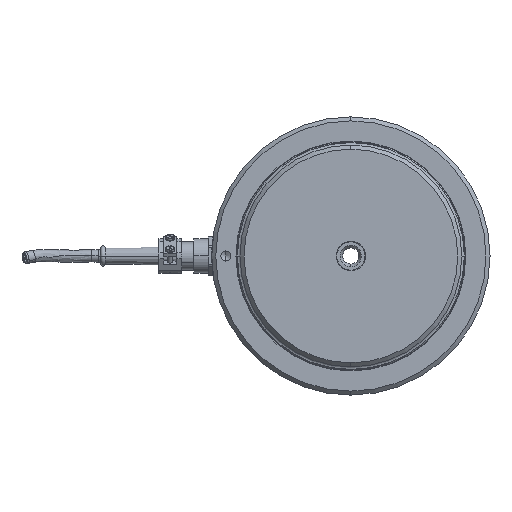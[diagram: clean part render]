
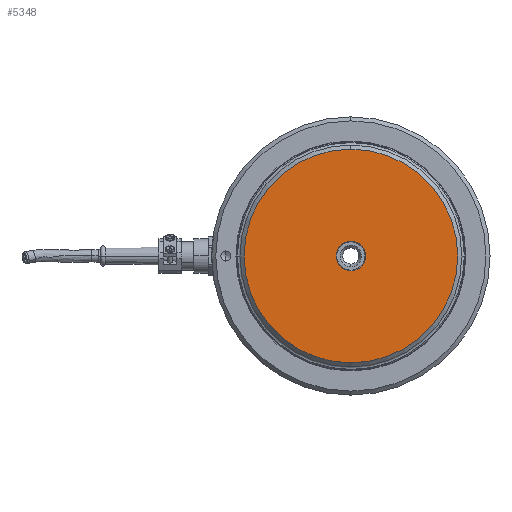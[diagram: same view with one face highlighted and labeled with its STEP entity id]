
A CAD part, left-side view. The second image highlights one B-rep face of the part: STEP entity #5348.
In plain terms, the highlighted planar face has unit normal (-1, 0, 0).
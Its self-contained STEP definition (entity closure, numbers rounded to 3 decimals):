
#30 = CARTESIAN_POINT ( 'NONE',  ( 0., 0., 0. ) ) ;
#328 = ORIENTED_EDGE ( 'NONE', *, *, #1116, .T. ) ;
#642 = EDGE_LOOP ( 'NONE', ( #818, #1182 ) ) ;
#818 = ORIENTED_EDGE ( 'NONE', *, *, #3886, .F. ) ;
#1010 = AXIS2_PLACEMENT_3D ( 'NONE', #30, #5929, #5841 ) ;
#1039 = AXIS2_PLACEMENT_3D ( 'NONE', #1417, #1298, #1276 ) ;
#1116 = EDGE_CURVE ( 'NONE', #1416, #4373, #5335, .T. ) ;
#1182 = ORIENTED_EDGE ( 'NONE', *, *, #1715, .F. ) ;
#1276 = DIRECTION ( 'NONE',  ( 0., 0., -1. ) ) ;
#1298 = DIRECTION ( 'NONE',  ( 1., 0., 0. ) ) ;
#1416 = VERTEX_POINT ( 'NONE', #1906 ) ;
#1417 = CARTESIAN_POINT ( 'NONE',  ( 0., 0., 0. ) ) ;
#1476 = AXIS2_PLACEMENT_3D ( 'NONE', #2980, #2933, #2891 ) ;
#1478 = PLANE ( 'NONE',  #1039 ) ;
#1509 = VERTEX_POINT ( 'NONE', #6103 ) ;
#1569 = DIRECTION ( 'NONE',  ( 0., 0., -1. ) ) ;
#1578 = DIRECTION ( 'NONE',  ( -1., 0., 0. ) ) ;
#1594 = CARTESIAN_POINT ( 'NONE',  ( 0., 0., 0. ) ) ;
#1715 = EDGE_CURVE ( 'NONE', #4143, #1509, #6416, .T. ) ;
#1905 = CIRCLE ( 'NONE', #1010, 53. ) ;
#1906 = CARTESIAN_POINT ( 'NONE',  ( 0., 0., 53. ) ) ;
#2113 = CARTESIAN_POINT ( 'NONE',  ( 0., 0., -53. ) ) ;
#2477 = CIRCLE ( 'NONE', #1476, 7.3 ) ;
#2891 = DIRECTION ( 'NONE',  ( 0., 0., 1. ) ) ;
#2933 = DIRECTION ( 'NONE',  ( -1., 0., 0. ) ) ;
#2980 = CARTESIAN_POINT ( 'NONE',  ( 0., 0., 0. ) ) ;
#3744 = DIRECTION ( 'NONE',  ( 0., 0., 1. ) ) ;
#3759 = EDGE_LOOP ( 'NONE', ( #5310, #328 ) ) ;
#3771 = DIRECTION ( 'NONE',  ( -1., 0., 0. ) ) ;
#3813 = CARTESIAN_POINT ( 'NONE',  ( 0., 0., 0. ) ) ;
#3886 = EDGE_CURVE ( 'NONE', #1509, #4143, #2477, .T. ) ;
#4013 = EDGE_CURVE ( 'NONE', #4373, #1416, #1905, .T. ) ;
#4143 = VERTEX_POINT ( 'NONE', #6011 ) ;
#4373 = VERTEX_POINT ( 'NONE', #2113 ) ;
#4540 = AXIS2_PLACEMENT_3D ( 'NONE', #3813, #3771, #3744 ) ;
#4879 = FACE_OUTER_BOUND ( 'NONE', #3759, .T. ) ;
#5310 = ORIENTED_EDGE ( 'NONE', *, *, #4013, .T. ) ;
#5335 = CIRCLE ( 'NONE', #6297, 53. ) ;
#5348 = ADVANCED_FACE ( 'NONE', ( #4879, #5961 ), #1478, .F. ) ;
#5841 = DIRECTION ( 'NONE',  ( 0., 0., -1. ) ) ;
#5929 = DIRECTION ( 'NONE',  ( -1., 0., 0. ) ) ;
#5961 = FACE_BOUND ( 'NONE', #642, .T. ) ;
#6011 = CARTESIAN_POINT ( 'NONE',  ( 0., 0., -7.3 ) ) ;
#6103 = CARTESIAN_POINT ( 'NONE',  ( 0., 0., 7.3 ) ) ;
#6297 = AXIS2_PLACEMENT_3D ( 'NONE', #1594, #1578, #1569 ) ;
#6416 = CIRCLE ( 'NONE', #4540, 7.3 ) ;
